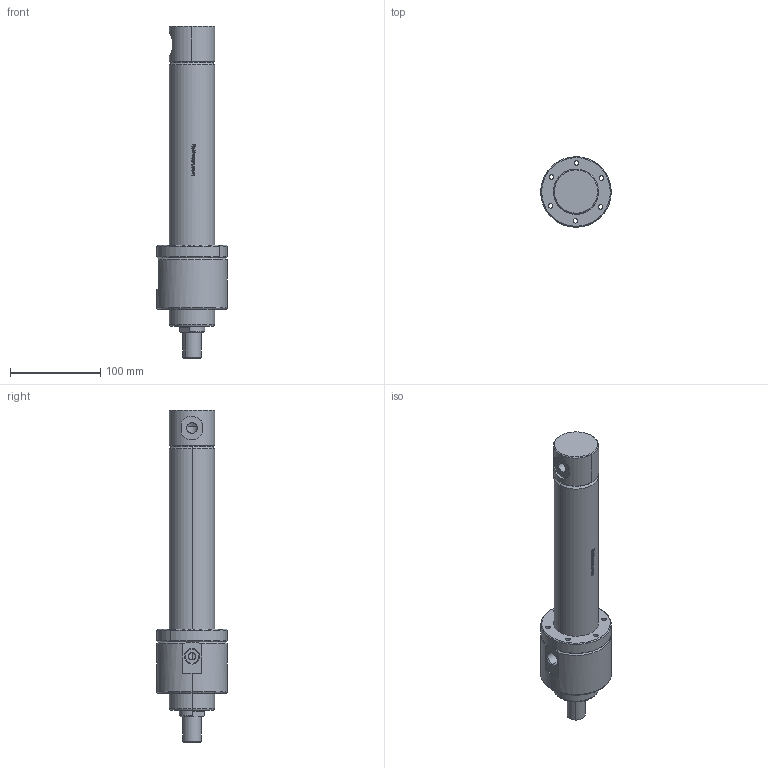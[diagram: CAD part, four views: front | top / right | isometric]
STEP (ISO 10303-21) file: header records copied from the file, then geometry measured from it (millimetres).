
FILE_DESCRIPTION (( 'STEP AP214' ), '1' );
FILE_NAME ('40_28_150_WEB.STEP', '2020-08-05T10:25:55', ( '' ), ( '' ), 'SwSTEP 2.0', 'SolidWorks 2018', '' );
FILE_SCHEMA (( 'AUTOMOTIVE_DESIGN' ));
Length unit declared in the file: millimetre
Products named in the file (11): KASTAS-K06-28X36_6X5_3X7; 40_28_150_WEB; Assem1; KASTAS-K84-32_8X40X3_4; KASTAS-K32-28X38X6; 28_K_MIL_WEB; 40_烰_KAPAK; 40_25_HON_BORU_WEB; Kastas Seals-K68-28X32X9_7; FLANS; TYAK_40_50
Assembly tree (11 placements, depth 3):
  40_28_150_WEB
    40_25_HON_BORU_WEB
    28_K_MIL_WEB
    Assem1
      40_烰_KAPAK
      KASTAS-K06-28X36_6X5_3X7
      KASTAS-K32-28X38X6
      Kastas Seals-K68-28X32X9_7  x2
      KASTAS-K84-32_8X40X3_4
    FLANS
    TYAK_40_50
Bounding box: 78 x 78 x 368 mm (x, y, z)
Volume: 535923.3 mm3; surface area: 148380.6 mm2
Topology: 10 solids, 10 shells, 483 faces, 1177 edges, 751 vertices
Faces by surface type: plane 143, cylinder 130, cone 103, bspline 103, torus 4
Entity records: 21002 total; most frequent: CARTESIAN_POINT 8059, ORIENTED_EDGE 2258, DIRECTION 2058, EDGE_CURVE 1129, AXIS2_PLACEMENT_3D 795, VERTEX_POINT 720, EDGE_LOOP 541, LINE 468
